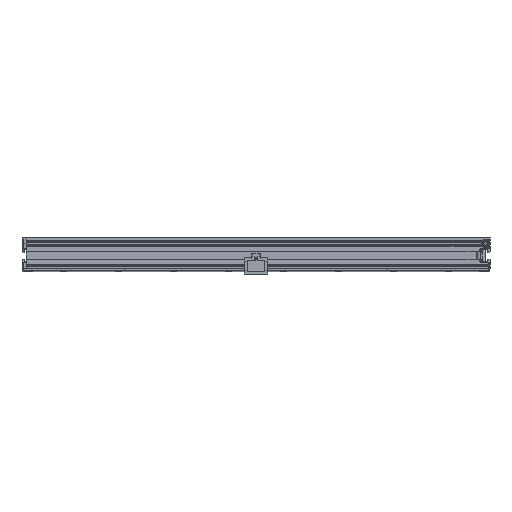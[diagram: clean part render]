
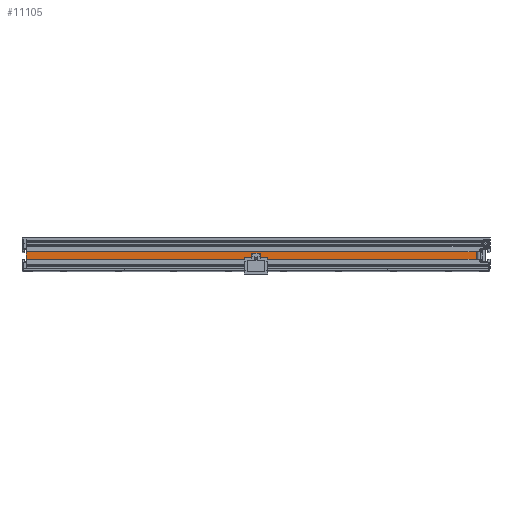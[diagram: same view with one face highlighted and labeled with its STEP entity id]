
A CAD part, top view. The second image highlights one B-rep face of the part: STEP entity #11105.
In plain terms, the highlighted planar face has unit normal (0, 0, 1).
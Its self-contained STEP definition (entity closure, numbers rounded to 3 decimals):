
#176 = EDGE_CURVE ( 'NONE', #9462, #33939, #26604, .T. ) ;
#536 = CARTESIAN_POINT ( 'NONE',  ( 100.5, 5.35, 77. ) ) ;
#3557 = VECTOR ( 'NONE', #21025, 1000. ) ;
#5860 = CARTESIAN_POINT ( 'NONE',  ( 100.5, 5.35, 77. ) ) ;
#7264 = LINE ( 'NONE', #10444, #34125 ) ;
#8083 = VECTOR ( 'NONE', #16262, 1000. ) ;
#9462 = VERTEX_POINT ( 'NONE', #12665 ) ;
#10121 = CARTESIAN_POINT ( 'NONE',  ( -104.5, 1., 77. ) ) ;
#10444 = CARTESIAN_POINT ( 'NONE',  ( -106.5, 8.65, 77. ) ) ;
#10845 = ORIENTED_EDGE ( 'NONE', *, *, #22576, .F. ) ;
#11105 = ADVANCED_FACE ( 'NONE', ( #37422 ), #29253, .F. ) ;
#11531 = EDGE_LOOP ( 'NONE', ( #33451, #29651, #23657, #10845 ) ) ;
#12345 = LINE ( 'NONE', #10121, #8083 ) ;
#12665 = CARTESIAN_POINT ( 'NONE',  ( -104.5, 5.35, 77. ) ) ;
#14949 = CARTESIAN_POINT ( 'NONE',  ( -106.5, 5.35, 77. ) ) ;
#16262 = DIRECTION ( 'NONE',  ( 0., 1., 0. ) ) ;
#17611 = VECTOR ( 'NONE', #38926, 1000. ) ;
#18919 = VERTEX_POINT ( 'NONE', #28242 ) ;
#18969 = VERTEX_POINT ( 'NONE', #34700 ) ;
#19482 = DIRECTION ( 'NONE',  ( 1., 0., 0. ) ) ;
#19514 = LINE ( 'NONE', #536, #3557 ) ;
#20150 = CARTESIAN_POINT ( 'NONE',  ( -106.5, 5.35, 77. ) ) ;
#20416 = DIRECTION ( 'NONE',  ( 0., 0., -1. ) ) ;
#21025 = DIRECTION ( 'NONE',  ( 0., 1., 0. ) ) ;
#22576 = EDGE_CURVE ( 'NONE', #9462, #18919, #12345, .T. ) ;
#23657 = ORIENTED_EDGE ( 'NONE', *, *, #38405, .F. ) ;
#26604 = LINE ( 'NONE', #14949, #17611 ) ;
#28045 = EDGE_CURVE ( 'NONE', #33939, #18969, #19514, .T. ) ;
#28242 = CARTESIAN_POINT ( 'NONE',  ( -104.5, 8.65, 77. ) ) ;
#29253 = PLANE ( 'NONE',  #30982 ) ;
#29651 = ORIENTED_EDGE ( 'NONE', *, *, #28045, .T. ) ;
#30982 = AXIS2_PLACEMENT_3D ( 'NONE', #20150, #20416, #32397 ) ;
#32397 = DIRECTION ( 'NONE',  ( -1., 0., 0. ) ) ;
#33451 = ORIENTED_EDGE ( 'NONE', *, *, #176, .T. ) ;
#33939 = VERTEX_POINT ( 'NONE', #5860 ) ;
#34125 = VECTOR ( 'NONE', #19482, 1000. ) ;
#34700 = CARTESIAN_POINT ( 'NONE',  ( 100.5, 8.65, 77. ) ) ;
#37422 = FACE_OUTER_BOUND ( 'NONE', #11531, .T. ) ;
#38405 = EDGE_CURVE ( 'NONE', #18919, #18969, #7264, .T. ) ;
#38926 = DIRECTION ( 'NONE',  ( 1., 0., 0. ) ) ;
